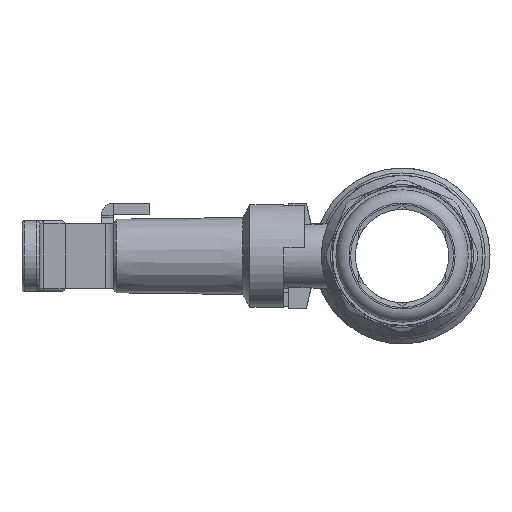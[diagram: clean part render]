
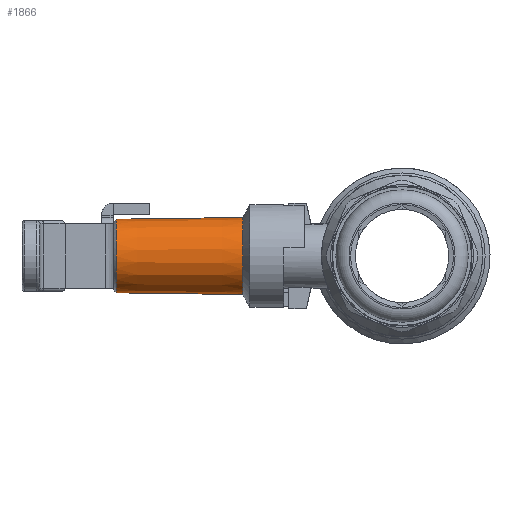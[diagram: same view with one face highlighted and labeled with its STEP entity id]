
A CAD part, left-side view. The second image highlights one B-rep face of the part: STEP entity #1866.
In plain terms, the highlighted conical face has half-angle 0.781 degrees and reference radius 13.041 mm.
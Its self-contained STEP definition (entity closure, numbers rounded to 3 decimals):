
#1835=CARTESIAN_POINT('',(0.0,97.186,-12.514));
#1836=VERTEX_POINT('',#1835);
#1837=CARTESIAN_POINT('',(0.,97.186,0.));
#1838=DIRECTION('',(0.0,-1.0,0.0));
#1839=DIRECTION('',(0.0,0.0,-1.0));
#1840=AXIS2_PLACEMENT_3D('',#1837,#1838,#1839);
#1841=CIRCLE('',#1840,12.514);
#1842=EDGE_CURVE('',#1836,#1836,#1841,.T.);
#1847=CARTESIAN_POINT('',(0.,58.502,0.0));
#1848=DIRECTION('',(0.0,-1.0,0.0));
#1849=DIRECTION('',(-1.0,0.0,0.0));
#1850=AXIS2_PLACEMENT_3D('',#1847,#1848,#1849);
#1851=CONICAL_SURFACE('',#1850,13.041,0.781);
#1852=ORIENTED_EDGE('',*,*,#1842,.T.);
#1853=EDGE_LOOP('',(#1852));
#1854=FACE_OUTER_BOUND('',#1853,.T.);
#1855=CARTESIAN_POINT('',(0.0,54.204,-13.1));
#1856=VERTEX_POINT('',#1855);
#1857=CARTESIAN_POINT('',(0.,54.204,0.));
#1858=DIRECTION('',(0.0,-1.0,0.0));
#1859=DIRECTION('',(0.0,0.0,-1.0));
#1860=AXIS2_PLACEMENT_3D('',#1857,#1858,#1859);
#1861=CIRCLE('',#1860,13.1);
#1862=EDGE_CURVE('',#1856,#1856,#1861,.T.);
#1863=ORIENTED_EDGE('',*,*,#1862,.F.);
#1864=EDGE_LOOP('',(#1863));
#1865=FACE_BOUND('',#1864,.T.);
#1866=ADVANCED_FACE('',(#1854,#1865),#1851,.T.);
